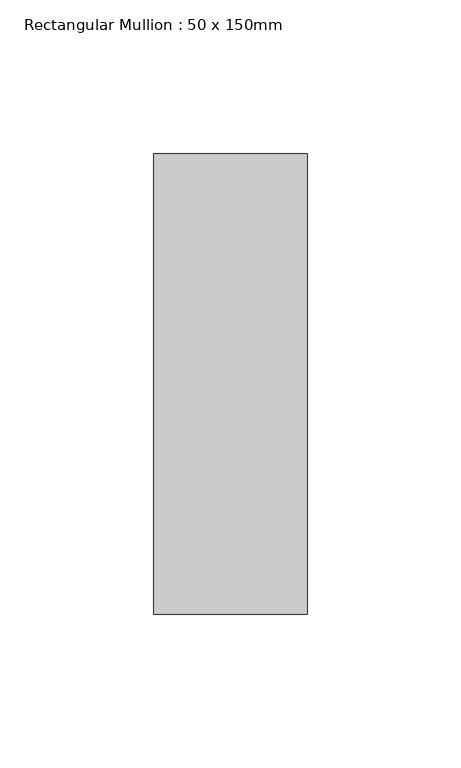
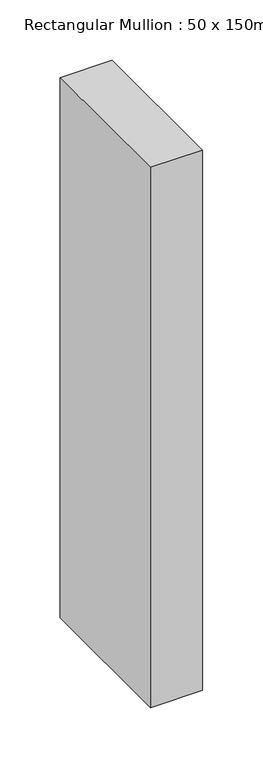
"""IFC4 building model written with IfcOpenShell, lengths in millimetres: member geometry, Rectangular Mullion : 50 x 150mm."""

from ifc_helpers import new_model, si_unit, frame, origin, place, context, project, spatial, polyline, outline, extrude, source, transform, mapped, element, save


def rectangular_mullion_50_x_150mm_8034a0d1(model_context):
    return source(origin(), model_context, "Body", "SweptSolid", [
        extrude(outline(polyline([(0.0, 0.0), (-0.051816, -50.0), (-547.5585216, -50.0), (-547.6066359, 0.0), (0.0, 0.0)])), frame((0.0, -75.0, 0.0), z_axis=(0.0, 1.0, 0.0), x_axis=(0.0, 0.0, 1.0)), (0.0, 0.0, 1.0), 150.0),
    ])


if __name__ == "__main__":
    model = new_model("IFC4")
    model_context = context("Model", 3, world=origin())
    ifc_project = project(units=[si_unit("LENGTHUNIT", "METRE", prefix="MILLI")], contexts=[model_context])
    site = spatial("IfcSite", under=ifc_project)
    building = spatial("IfcBuilding", under=site)
    placement = place(None, origin())
    rectangular_mullion_50_x_150mm_shape = rectangular_mullion_50_x_150mm_8034a0d1(model_context)
    element("IfcMember", 1, ObjectType="Rectangular Mullion : 50 x 150mm", at=placement, inside=building, context=model_context, shape_type="MappedRepresentation", body=[
        mapped(rectangular_mullion_50_x_150mm_shape, transform((0.0, 0.0, 0.0), x_axis=(1.0, 0.0, 0.0), y_axis=(0.0, 1.0, 0.0), z_axis=(0.0, 0.0, 1.0))),
    ])
    save(model, "model.ifc")
